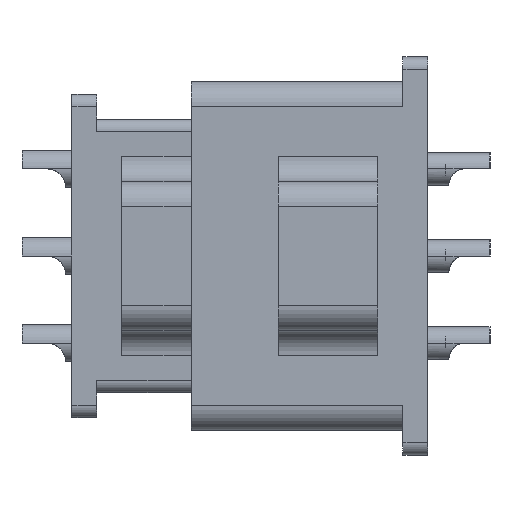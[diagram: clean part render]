
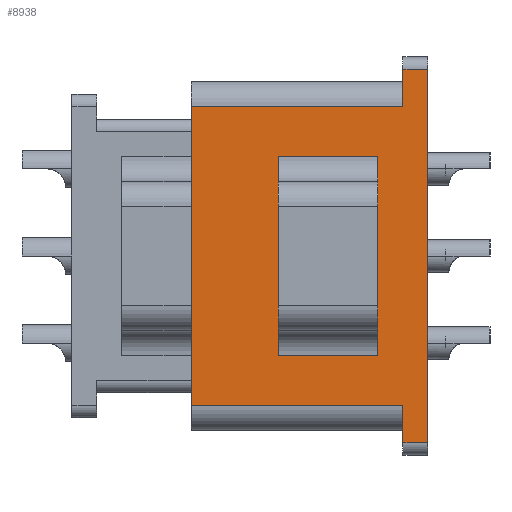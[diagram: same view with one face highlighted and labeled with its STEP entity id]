
A CAD part, left-side view. The second image highlights one B-rep face of the part: STEP entity #8938.
In plain terms, the highlighted planar face has unit normal (-1, 0, 0).
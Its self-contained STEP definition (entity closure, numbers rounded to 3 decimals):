
#6625=DIRECTION('',(0.,0.,1.));
#6626=VECTOR('',#6625,12.);
#6627=CARTESIAN_POINT('',(-14.,0.,-6.));
#6628=LINE('',#6627,#6626);
#6685=DIRECTION('',(0.,0.,-1.));
#6686=VECTOR('',#6685,1.5);
#6687=CARTESIAN_POINT('',(-14.,-8.5,-6.));
#6688=LINE('',#6687,#6686);
#6703=DIRECTION('',(0.,0.,-1.));
#6704=VECTOR('',#6703,1.5);
#6705=CARTESIAN_POINT('',(-14.,-8.5,7.5));
#6706=LINE('',#6705,#6704);
#6711=DIRECTION('',(0.,-1.,0.));
#6712=VECTOR('',#6711,4.);
#6713=CARTESIAN_POINT('',(-14.,-3.5,-4.));
#6714=LINE('',#6713,#6712);
#6715=DIRECTION('',(0.,1.,0.));
#6716=VECTOR('',#6715,4.);
#6717=CARTESIAN_POINT('',(-14.,-7.5,4.));
#6718=LINE('',#6717,#6716);
#6719=DIRECTION('',(0.,1.,0.));
#6720=VECTOR('',#6719,1.);
#6721=CARTESIAN_POINT('',(-14.,-9.5,-7.5));
#6722=LINE('',#6721,#6720);
#6723=DIRECTION('',(0.,-1.,0.));
#6724=VECTOR('',#6723,8.5);
#6725=CARTESIAN_POINT('',(-14.,0.,-6.));
#6726=LINE('',#6725,#6724);
#6727=DIRECTION('',(0.,-1.,0.));
#6728=VECTOR('',#6727,8.5);
#6729=CARTESIAN_POINT('',(-14.,0.,6.));
#6730=LINE('',#6729,#6728);
#6731=DIRECTION('',(0.,1.,0.));
#6732=VECTOR('',#6731,1.);
#6733=CARTESIAN_POINT('',(-14.,-9.5,7.5));
#6734=LINE('',#6733,#6732);
#6749=DIRECTION('',(0.,0.,1.));
#6750=VECTOR('',#6749,8.);
#6751=CARTESIAN_POINT('',(-14.,-7.5,-4.));
#6752=LINE('',#6751,#6750);
#6800=DIRECTION('',(0.,0.,1.));
#6801=VECTOR('',#6800,8.);
#6802=CARTESIAN_POINT('',(-14.,-3.5,-4.));
#6803=LINE('',#6802,#6801);
#7220=DIRECTION('',(0.,0.,-1.));
#7221=VECTOR('',#7220,15.);
#7222=CARTESIAN_POINT('',(-14.,-9.5,7.5));
#7223=LINE('',#7222,#7221);
#8487=CARTESIAN_POINT('',(-14.,-3.5,4.));
#8489=VERTEX_POINT('',#8487);
#8490=CARTESIAN_POINT('',(-14.,-3.5,-4.));
#8492=VERTEX_POINT('',#8490);
#8515=CARTESIAN_POINT('',(-14.,0.,-6.));
#8517=VERTEX_POINT('',#8515);
#8518=CARTESIAN_POINT('',(-14.,0.,6.));
#8520=VERTEX_POINT('',#8518);
#8552=CARTESIAN_POINT('',(-14.,-8.5,-6.));
#8553=VERTEX_POINT('',#8552);
#8554=CARTESIAN_POINT('',(-14.,-8.5,6.));
#8555=VERTEX_POINT('',#8554);
#8754=CARTESIAN_POINT('',(-14.,-7.5,4.));
#8755=VERTEX_POINT('',#8754);
#8756=CARTESIAN_POINT('',(-14.,-7.5,-4.));
#8757=VERTEX_POINT('',#8756);
#8759=CARTESIAN_POINT('',(-14.,-8.5,-7.5));
#8761=VERTEX_POINT('',#8759);
#8762=CARTESIAN_POINT('',(-14.,-9.5,-7.5));
#8763=VERTEX_POINT('',#8762);
#8782=CARTESIAN_POINT('',(-14.,-8.5,7.5));
#8784=VERTEX_POINT('',#8782);
#8788=CARTESIAN_POINT('',(-14.,-9.5,7.5));
#8789=VERTEX_POINT('',#8788);
#8909=CARTESIAN_POINT('',(-14.,0.,-7.));
#8910=DIRECTION('',(-1.,0.,0.));
#8911=DIRECTION('',(0.,0.,1.));
#8912=AXIS2_PLACEMENT_3D('',#8909,#8910,#8911);
#8913=PLANE('',#8912);
#8914=ORIENTED_EDGE('',*,*,#8900,.T.);
#8915=ORIENTED_EDGE('',*,*,#8865,.F.);
#8917=ORIENTED_EDGE('',*,*,#8916,.F.);
#8918=ORIENTED_EDGE('',*,*,#8805,.T.);
#8920=ORIENTED_EDGE('',*,*,#8919,.T.);
#8921=ORIENTED_EDGE('',*,*,#8881,.F.);
#8923=ORIENTED_EDGE('',*,*,#8922,.F.);
#8925=ORIENTED_EDGE('',*,*,#8924,.T.);
#8926=EDGE_LOOP('',(#8914,#8915,#8917,#8918,#8920,#8921,#8923,#8925));
#8927=FACE_OUTER_BOUND('',#8926,.F.);
#8929=ORIENTED_EDGE('',*,*,#8928,.T.);
#8931=ORIENTED_EDGE('',*,*,#8930,.T.);
#8933=ORIENTED_EDGE('',*,*,#8932,.T.);
#8935=ORIENTED_EDGE('',*,*,#8934,.F.);
#8936=EDGE_LOOP('',(#8929,#8931,#8933,#8935));
#8937=FACE_BOUND('',#8936,.F.);
#8938=ADVANCED_FACE('',(#8927,#8937),#8913,.T.);
#8805=EDGE_CURVE('',#8517,#8520,#6628,.T.);
#8865=EDGE_CURVE('',#8553,#8761,#6688,.T.);
#8881=EDGE_CURVE('',#8784,#8555,#6706,.T.);
#8900=EDGE_CURVE('',#8763,#8761,#6722,.T.);
#8916=EDGE_CURVE('',#8517,#8553,#6726,.T.);
#8919=EDGE_CURVE('',#8520,#8555,#6730,.T.);
#8922=EDGE_CURVE('',#8789,#8784,#6734,.T.);
#8924=EDGE_CURVE('',#8789,#8763,#7223,.T.);
#8928=EDGE_CURVE('',#8492,#8757,#6714,.T.);
#8930=EDGE_CURVE('',#8757,#8755,#6752,.T.);
#8932=EDGE_CURVE('',#8755,#8489,#6718,.T.);
#8934=EDGE_CURVE('',#8492,#8489,#6803,.T.);
